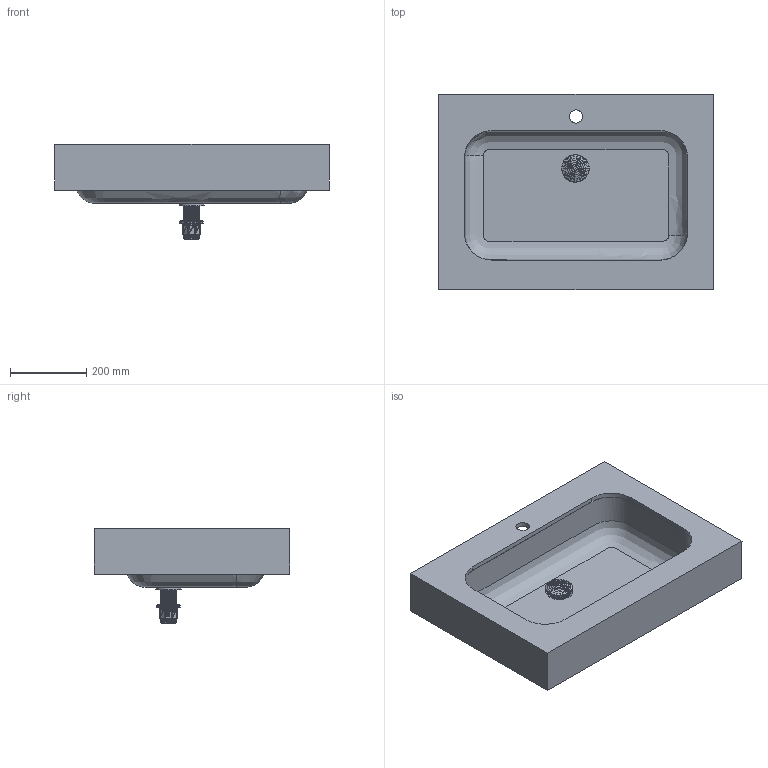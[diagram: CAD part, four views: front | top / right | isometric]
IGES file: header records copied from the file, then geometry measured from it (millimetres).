
Start section: Data from Parasolid IGES Translator 19.0.9, Copyright(c) 2006 Siemens PL M Software. All Rights Reserved.
Global section: file name: noorth-top-H 12 D 51,3 W 72_4798.igs; native system: By Siemens PLM Incorporated; preprocessor: XPlus GENERIC/IGES 19.0.9; author: Noname; organization: Noname; date: 20200603.092448; units: metre
Bounding box: 720 x 512 x 249.69 mm (x, y, z)
Volume: 9936174.5 mm3; surface area: 1685278 mm2
Topology: 2 solids, 2 shells, 11662 faces, 34961 edges, 34923 vertices
Faces by surface type: extrusion 11618, bspline 20, plane 16, cylinder 5, cone 3
Full cylindrical faces by diameter (mm): 34.9 x1, 46 x1, 66 x1
